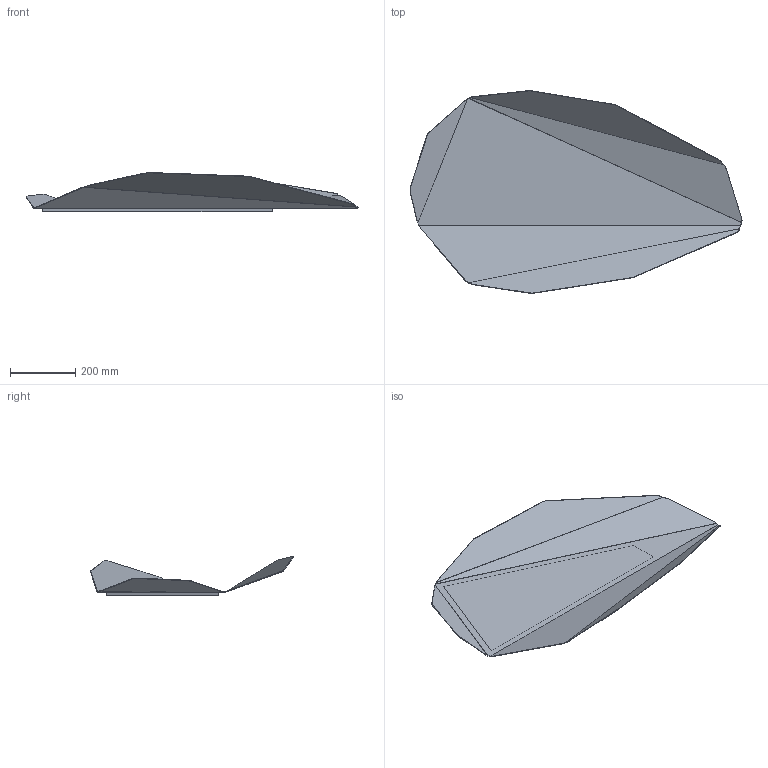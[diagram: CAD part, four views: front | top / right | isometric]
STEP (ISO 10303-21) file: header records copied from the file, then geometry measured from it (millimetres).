
FILE_DESCRIPTION(/* description */ (''),/* implementation_level */ '2;1');
FILE_NAME(/* name */ 'VW_Piega-Mirror_MEDIUM_3D_JS_20231110',/* time_stamp */ '2023-11-10T11:24:54+01:00',/* author */ (''),/* organization */ (''),/* preprocessor_version */ 'ST-DEVELOPER v16.5',/* originating_system */ 'Rhino 7.34',/* authorisation */ '');
FILE_SCHEMA (('CONFIG_CONTROL_DESIGN'));
Length unit declared in the file: millimetre
Products named in the file (1): Document
Bounding box: 1014.96 x 620.15 x 119.41 mm (x, y, z)
Volume: 1444874 mm3; surface area: 1341497.3 mm2
Topology: 1 solids, 77 shells, 82 faces, 196 edges, 192 vertices
Faces by surface type: plane 44, cylinder 28, bspline 10
Entity records: 2692 total; most frequent: CARTESIAN_POINT 1207, ORIENTED_EDGE 208, EDGE_CURVE 196, VERTEX_POINT 192, B_SPLINE_CURVE_WITH_KNOTS 168, ADVANCED_FACE 82, FACE_OUTER_BOUND 82, EDGE_LOOP 82
